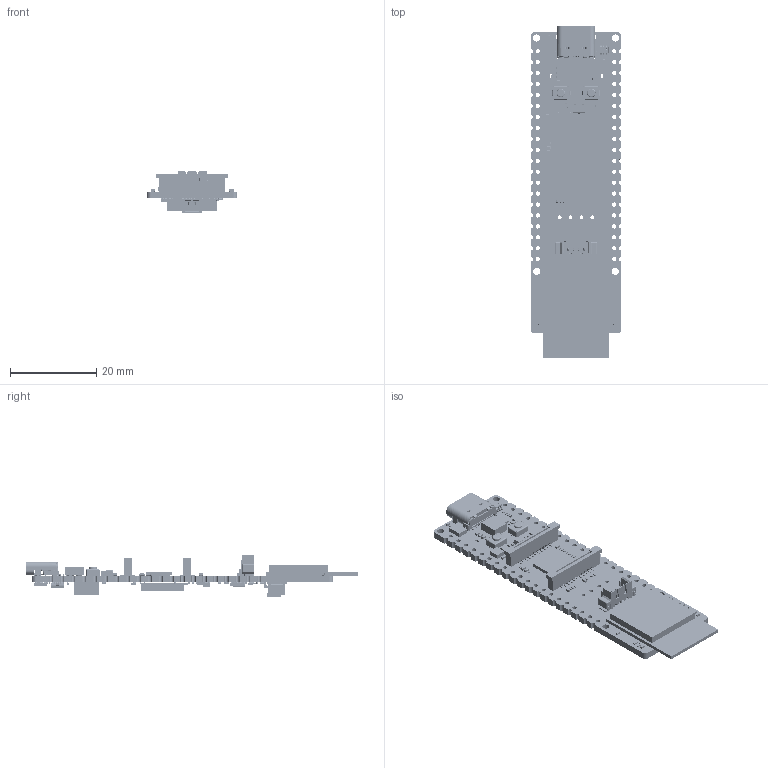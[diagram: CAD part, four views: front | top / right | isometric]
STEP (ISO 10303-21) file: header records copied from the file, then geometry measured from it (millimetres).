
FILE_DESCRIPTION((''),'2;1');
FILE_NAME('ESP32-P4-WIFI6-DB_ASM','2026-10-12T14:59:32',('wuxiujuan'),(''),'CREO PARAMETRIC BY PTC INC, 2021063','CREO PARAMETRIC BY PTC INC, 2021063','');
FILE_SCHEMA(('CONFIG_CONTROL_DESIGN','SHAPE_APPEARANCE_LAYERS_GROUPS'));
Products named in the file (302): OPEN_CASCADE_STEP_TRANSLATO-806; BOARD-796_ASM; MOLEX1_25-LS-_1_200; MOLEX1_25-LS-4P-12182_AF0; MOLEX1_25-LS-4P-1219_AF0_ASM_ASM; MOLEX1_25-LS-4P_ASM; P1_ASM; _1_10001; 3_1_A; 2_100; C_0402-672_AF0_ASM_ASM; C_0402-4045_AF0_ASM_ASM; C_0402_ASM; C5_ASM; C4_ASM; USER_LIBRARY-0201_0603M__CAP_1; USER_LIBRARY-0201_0603M__CAP_2; USER_LIBRARY-0201_0603M__CAP_3; USER_LIBRARY-0201_0603M__CAP_ASM; C43_ASM; FPC-22PX0_5MM-DISPLAY; J2_ASM; EXTRUDED-53928; 6941248784_ASM; Y1_ASM; EXTRUDED-54143; 7529239712_ASM; Y2_ASM; EXTRUDED-54358; 7529316976_ASM; U11_ASM; SOT23-5AND6_00; SOT23-5-14065_AF0; SOT23-5-14113_AF0_ASM_ASM; SOT23-5-2_ASM; U8_ASM; EXTRUDED-76495; 7529239152_ASM; U4_ASM; EXTRUDED-76734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
Assembly tree (505 placements, depth 7):
  ESP32-P4-WIFI6-DB_ASM
    PCB_ASM
      BOARD-796_ASM
        OPEN_CASCADE_STEP_TRANSLATO-806
      P1_ASM
        MOLEX1_25-LS-4P_ASM
          MOLEX1_25-LS-4P-1219_AF0_ASM_ASM
            MOLEX1_25-LS-_1_200  x4
            MOLEX1_25-LS-4P-12182_AF0
      C5_ASM
        C_0402_ASM
          C_0402-4045_AF0_ASM_ASM
            C_0402-672_AF0_ASM_ASM
              _1_10001
              3_1_A
              2_100
      C4_ASM
        C_0402_ASM
          C_0402-4045_AF0_ASM_ASM
            C_0402-672_AF0_ASM_ASM
              _1_10001
              3_1_A
              2_100
      C43_ASM
        USER_LIBRARY-0201_0603M__CAP_ASM
          USER_LIBRARY-0201_0603M__CAP_1
          USER_LIBRARY-0201_0603M__CAP_2
          USER_LIBRARY-0201_0603M__CAP_3
      J2_ASM
        FPC-22PX0_5MM-DISPLAY
      Y1_ASM
        6941248784_ASM
          EXTRUDED-53928
      Y2_ASM
        7529239712_ASM
          EXTRUDED-54143
      U11_ASM
        7529316976_ASM
          EXTRUDED-54358
      U8_ASM
        SOT23-5-2_ASM
          SOT23-5-14113_AF0_ASM_ASM
            SOT23-5AND6_00  x5
            SOT23-5-14065_AF0
      U4_ASM
        7529239152_ASM
          EXTRUDED-76495
      U3_ASM
        7529318976_ASM
          EXTRUDED-76734
        6941242544_ASM  x6
          EXTRUDED-76926
      R73_ASM
        USER_LIBRARY-RES_0603-0201_ASM
          USER_LIBRARY-RES_0603-0201_1
          USER_LIBRARY-RES_0603-0201_2
          USER_LIBRARY-RES_0603-0201_3
          USER_LIBRARY-RES_0603-0201_4
      R69_ASM
        USER_LIBRARY-RES_0603-0201_ASM
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Bounding box: 21 x 77.05 x 9.6 mm (x, y, z)
Volume: 3812.1 mm3; surface area: 7513.8 mm2
Topology: 657 solids, 669 shells, 23382 faces, 60035 edges, 38335 vertices
Faces by surface type: plane 13131, extrusion 5952, cylinder 3268, sphere 921, torus 44, cone 36, bspline 30
Entity records: 232700 total; most frequent: CARTESIAN_POINT 45587, ORIENTED_EDGE 27882, DIRECTION 27189, PRESENTATION_STYLE_ASSIGNMENT 14985, STYLED_ITEM 14134, CURVE_STYLE 14061, EDGE_CURVE 13941, VECTOR 11197
